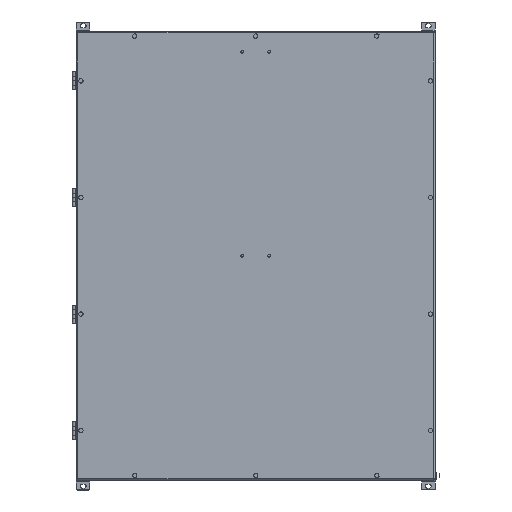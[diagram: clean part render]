
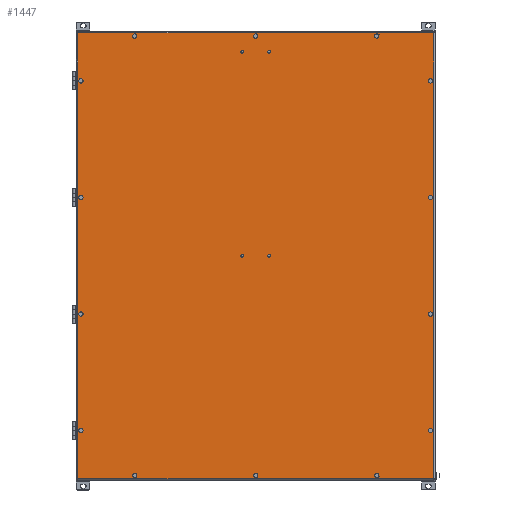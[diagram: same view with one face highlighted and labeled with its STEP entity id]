
A CAD part, top view. The second image highlights one B-rep face of the part: STEP entity #1447.
In plain terms, the highlighted planar face has unit normal (0, 0, 1).
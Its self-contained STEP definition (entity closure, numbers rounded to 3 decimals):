
#867=CARTESIAN_POINT('',(-397.0,-497.0,300.5));
#868=VERTEX_POINT('',#867);
#886=CARTESIAN_POINT('',(397.,-497.0,300.5));
#887=VERTEX_POINT('',#886);
#895=CARTESIAN_POINT('',(397.0,-497.0,300.5));
#896=DIRECTION('',(-1.0,0.0,0.0));
#897=VECTOR('',#896,794.0);
#898=LINE('',#895,#897);
#899=EDGE_CURVE('',#887,#868,#898,.T.);
#909=CARTESIAN_POINT('',(-397.,497.0,300.5));
#910=VERTEX_POINT('',#909);
#935=CARTESIAN_POINT('',(-397.0,-497.,300.5));
#936=DIRECTION('',(0.0,1.0,0.0));
#937=VECTOR('',#936,994.0);
#938=LINE('',#935,#937);
#939=EDGE_CURVE('',#868,#910,#938,.T.);
#949=CARTESIAN_POINT('',(397.0,497.0,300.5));
#950=VERTEX_POINT('',#949);
#975=CARTESIAN_POINT('',(-397.,497.0,300.5));
#976=DIRECTION('',(1.0,0.0,0.0));
#977=VECTOR('',#976,794.);
#978=LINE('',#975,#977);
#979=EDGE_CURVE('',#910,#950,#978,.T.);
#1013=CARTESIAN_POINT('',(397.0,497.0,300.5));
#1014=DIRECTION('',(0.0,-1.0,0.0));
#1015=VECTOR('',#1014,994.0);
#1016=LINE('',#1013,#1015);
#1017=EDGE_CURVE('',#950,#887,#1016,.T.);
#1238=CARTESIAN_POINT('',(0.,0.,300.5));
#1239=DIRECTION('',(0.0,0.0,1.0));
#1240=DIRECTION('',(1.0,0.0,0.0));
#1241=AXIS2_PLACEMENT_3D('',#1238,#1239,#1240);
#1242=PLANE('',#1241);
#1243=ORIENTED_EDGE('',*,*,#899,.F.);
#1244=ORIENTED_EDGE('',*,*,#1017,.F.);
#1245=ORIENTED_EDGE('',*,*,#979,.F.);
#1246=ORIENTED_EDGE('',*,*,#939,.F.);
#1247=EDGE_LOOP('',(#1243,#1244,#1245,#1246));
#1248=FACE_OUTER_BOUND('',#1247,.T.);
#1249=CARTESIAN_POINT('',(-386.25,390.0,300.5));
#1250=VERTEX_POINT('',#1249);
#1251=CARTESIAN_POINT('',(-390.,390.0,300.5));
#1252=DIRECTION('',(0.0,0.0,-1.0));
#1253=DIRECTION('',(-1.0,0.0,0.0));
#1254=AXIS2_PLACEMENT_3D('',#1251,#1252,#1253);
#1255=CIRCLE('',#1254,3.75);
#1256=EDGE_CURVE('',#1250,#1250,#1255,.T.);
#1257=ORIENTED_EDGE('',*,*,#1256,.T.);
#1258=EDGE_LOOP('',(#1257));
#1259=FACE_BOUND('',#1258,.T.);
#1260=CARTESIAN_POINT('',(393.75,390.,300.5));
#1261=VERTEX_POINT('',#1260);
#1262=CARTESIAN_POINT('',(390.,390.,300.5));
#1263=DIRECTION('',(0.0,0.0,-1.0));
#1264=DIRECTION('',(-1.0,0.0,0.0));
#1265=AXIS2_PLACEMENT_3D('',#1262,#1263,#1264);
#1266=CIRCLE('',#1265,3.75);
#1267=EDGE_CURVE('',#1261,#1261,#1266,.T.);
#1268=ORIENTED_EDGE('',*,*,#1267,.T.);
#1269=EDGE_LOOP('',(#1268));
#1270=FACE_BOUND('',#1269,.T.);
#1271=CARTESIAN_POINT('',(-386.25,130.,300.5));
#1272=VERTEX_POINT('',#1271);
#1273=CARTESIAN_POINT('',(-390.,130.,300.5));
#1274=DIRECTION('',(0.0,0.0,-1.0));
#1275=DIRECTION('',(-1.0,0.0,0.0));
#1276=AXIS2_PLACEMENT_3D('',#1273,#1274,#1275);
#1277=CIRCLE('',#1276,3.75);
#1278=EDGE_CURVE('',#1272,#1272,#1277,.T.);
#1279=ORIENTED_EDGE('',*,*,#1278,.T.);
#1280=EDGE_LOOP('',(#1279));
#1281=FACE_BOUND('',#1280,.T.);
#1282=CARTESIAN_POINT('',(393.75,130.,300.5));
#1283=VERTEX_POINT('',#1282);
#1284=CARTESIAN_POINT('',(390.,130.,300.5));
#1285=DIRECTION('',(0.0,0.0,-1.0));
#1286=DIRECTION('',(-1.0,0.0,0.0));
#1287=AXIS2_PLACEMENT_3D('',#1284,#1285,#1286);
#1288=CIRCLE('',#1287,3.75);
#1289=EDGE_CURVE('',#1283,#1283,#1288,.T.);
#1290=ORIENTED_EDGE('',*,*,#1289,.T.);
#1291=EDGE_LOOP('',(#1290));
#1292=FACE_BOUND('',#1291,.T.);
#1293=CARTESIAN_POINT('',(-386.25,-130.,300.5));
#1294=VERTEX_POINT('',#1293);
#1295=CARTESIAN_POINT('',(-390.,-130.,300.5));
#1296=DIRECTION('',(0.0,0.0,-1.0));
#1297=DIRECTION('',(-1.0,0.0,0.0));
#1298=AXIS2_PLACEMENT_3D('',#1295,#1296,#1297);
#1299=CIRCLE('',#1298,3.75);
#1300=EDGE_CURVE('',#1294,#1294,#1299,.T.);
#1301=ORIENTED_EDGE('',*,*,#1300,.T.);
#1302=EDGE_LOOP('',(#1301));
#1303=FACE_BOUND('',#1302,.T.);
#1304=CARTESIAN_POINT('',(393.75,-130.,300.5));
#1305=VERTEX_POINT('',#1304);
#1306=CARTESIAN_POINT('',(390.,-130.,300.5));
#1307=DIRECTION('',(0.0,0.0,-1.0));
#1308=DIRECTION('',(-1.0,0.0,0.0));
#1309=AXIS2_PLACEMENT_3D('',#1306,#1307,#1308);
#1310=CIRCLE('',#1309,3.75);
#1311=EDGE_CURVE('',#1305,#1305,#1310,.T.);
#1312=ORIENTED_EDGE('',*,*,#1311,.T.);
#1313=EDGE_LOOP('',(#1312));
#1314=FACE_BOUND('',#1313,.T.);
#1315=CARTESIAN_POINT('',(-386.25,-390.0,300.5));
#1316=VERTEX_POINT('',#1315);
#1317=CARTESIAN_POINT('',(-390.,-390.0,300.5));
#1318=DIRECTION('',(0.0,0.0,-1.0));
#1319=DIRECTION('',(-1.0,0.0,0.0));
#1320=AXIS2_PLACEMENT_3D('',#1317,#1318,#1319);
#1321=CIRCLE('',#1320,3.75);
#1322=EDGE_CURVE('',#1316,#1316,#1321,.T.);
#1323=ORIENTED_EDGE('',*,*,#1322,.T.);
#1324=EDGE_LOOP('',(#1323));
#1325=FACE_BOUND('',#1324,.T.);
#1326=CARTESIAN_POINT('',(393.75,-390.,300.5));
#1327=VERTEX_POINT('',#1326);
#1328=CARTESIAN_POINT('',(390.,-390.,300.5));
#1329=DIRECTION('',(0.0,0.0,-1.0));
#1330=DIRECTION('',(-1.0,0.0,0.0));
#1331=AXIS2_PLACEMENT_3D('',#1328,#1329,#1330);
#1332=CIRCLE('',#1331,3.75);
#1333=EDGE_CURVE('',#1327,#1327,#1332,.T.);
#1334=ORIENTED_EDGE('',*,*,#1333,.T.);
#1335=EDGE_LOOP('',(#1334));
#1336=FACE_BOUND('',#1335,.T.);
#1337=CARTESIAN_POINT('',(3.75,490.0,300.5));
#1338=VERTEX_POINT('',#1337);
#1339=CARTESIAN_POINT('',(0.,490.0,300.5));
#1340=DIRECTION('',(0.0,0.0,-1.0));
#1341=DIRECTION('',(-1.0,0.0,0.0));
#1342=AXIS2_PLACEMENT_3D('',#1339,#1340,#1341);
#1343=CIRCLE('',#1342,3.75);
#1344=EDGE_CURVE('',#1338,#1338,#1343,.T.);
#1345=ORIENTED_EDGE('',*,*,#1344,.T.);
#1346=EDGE_LOOP('',(#1345));
#1347=FACE_BOUND('',#1346,.T.);
#1348=CARTESIAN_POINT('',(3.75,-490.0,300.5));
#1349=VERTEX_POINT('',#1348);
#1350=CARTESIAN_POINT('',(0.,-490.0,300.5));
#1351=DIRECTION('',(0.0,0.0,-1.0));
#1352=DIRECTION('',(-1.0,0.0,0.0));
#1353=AXIS2_PLACEMENT_3D('',#1350,#1351,#1352);
#1354=CIRCLE('',#1353,3.75);
#1355=EDGE_CURVE('',#1349,#1349,#1354,.T.);
#1356=ORIENTED_EDGE('',*,*,#1355,.T.);
#1357=EDGE_LOOP('',(#1356));
#1358=FACE_BOUND('',#1357,.T.);
#1359=CARTESIAN_POINT('',(-266.25,490.0,300.5));
#1360=VERTEX_POINT('',#1359);
#1361=CARTESIAN_POINT('',(-270.0,490.0,300.5));
#1362=DIRECTION('',(0.0,0.0,-1.0));
#1363=DIRECTION('',(-1.0,0.0,0.0));
#1364=AXIS2_PLACEMENT_3D('',#1361,#1362,#1363);
#1365=CIRCLE('',#1364,3.75);
#1366=EDGE_CURVE('',#1360,#1360,#1365,.T.);
#1367=ORIENTED_EDGE('',*,*,#1366,.T.);
#1368=EDGE_LOOP('',(#1367));
#1369=FACE_BOUND('',#1368,.T.);
#1370=CARTESIAN_POINT('',(-266.25,-490.0,300.5));
#1371=VERTEX_POINT('',#1370);
#1372=CARTESIAN_POINT('',(-270.,-490.0,300.5));
#1373=DIRECTION('',(0.0,0.0,-1.0));
#1374=DIRECTION('',(-1.0,0.0,0.0));
#1375=AXIS2_PLACEMENT_3D('',#1372,#1373,#1374);
#1376=CIRCLE('',#1375,3.75);
#1377=EDGE_CURVE('',#1371,#1371,#1376,.T.);
#1378=ORIENTED_EDGE('',*,*,#1377,.T.);
#1379=EDGE_LOOP('',(#1378));
#1380=FACE_BOUND('',#1379,.T.);
#1381=CARTESIAN_POINT('',(273.75,490.0,300.5));
#1382=VERTEX_POINT('',#1381);
#1383=CARTESIAN_POINT('',(270.0,490.0,300.5));
#1384=DIRECTION('',(0.0,0.0,-1.0));
#1385=DIRECTION('',(-1.0,0.0,0.0));
#1386=AXIS2_PLACEMENT_3D('',#1383,#1384,#1385);
#1387=CIRCLE('',#1386,3.75);
#1388=EDGE_CURVE('',#1382,#1382,#1387,.T.);
#1389=ORIENTED_EDGE('',*,*,#1388,.T.);
#1390=EDGE_LOOP('',(#1389));
#1391=FACE_BOUND('',#1390,.T.);
#1392=CARTESIAN_POINT('',(273.75,-490.0,300.5));
#1393=VERTEX_POINT('',#1392);
#1394=CARTESIAN_POINT('',(270.,-490.0,300.5));
#1395=DIRECTION('',(0.0,0.0,-1.0));
#1396=DIRECTION('',(-1.0,0.0,0.0));
#1397=AXIS2_PLACEMENT_3D('',#1394,#1395,#1396);
#1398=CIRCLE('',#1397,3.75);
#1399=EDGE_CURVE('',#1393,#1393,#1398,.T.);
#1400=ORIENTED_EDGE('',*,*,#1399,.T.);
#1401=EDGE_LOOP('',(#1400));
#1402=FACE_BOUND('',#1401,.T.);
#1403=CARTESIAN_POINT('',(33.05,455.0,300.5));
#1404=VERTEX_POINT('',#1403);
#1405=CARTESIAN_POINT('',(30.,455.0,300.5));
#1406=DIRECTION('',(0.0,0.0,-1.0));
#1407=DIRECTION('',(-1.0,0.0,0.0));
#1408=AXIS2_PLACEMENT_3D('',#1405,#1406,#1407);
#1409=CIRCLE('',#1408,3.05);
#1410=EDGE_CURVE('',#1404,#1404,#1409,.T.);
#1411=ORIENTED_EDGE('',*,*,#1410,.T.);
#1412=EDGE_LOOP('',(#1411));
#1413=FACE_BOUND('',#1412,.T.);
#1414=CARTESIAN_POINT('',(-26.95,455.0,300.5));
#1415=VERTEX_POINT('',#1414);
#1416=CARTESIAN_POINT('',(-30.,455.0,300.5));
#1417=DIRECTION('',(0.0,0.0,-1.0));
#1418=DIRECTION('',(-1.0,0.0,0.0));
#1419=AXIS2_PLACEMENT_3D('',#1416,#1417,#1418);
#1420=CIRCLE('',#1419,3.05);
#1421=EDGE_CURVE('',#1415,#1415,#1420,.T.);
#1422=ORIENTED_EDGE('',*,*,#1421,.T.);
#1423=EDGE_LOOP('',(#1422));
#1424=FACE_BOUND('',#1423,.T.);
#1425=CARTESIAN_POINT('',(-26.95,0.,300.5));
#1426=VERTEX_POINT('',#1425);
#1427=CARTESIAN_POINT('',(-30.,0.,300.5));
#1428=DIRECTION('',(0.0,0.0,-1.0));
#1429=DIRECTION('',(-1.0,0.0,0.0));
#1430=AXIS2_PLACEMENT_3D('',#1427,#1428,#1429);
#1431=CIRCLE('',#1430,3.05);
#1432=EDGE_CURVE('',#1426,#1426,#1431,.T.);
#1433=ORIENTED_EDGE('',*,*,#1432,.T.);
#1434=EDGE_LOOP('',(#1433));
#1435=FACE_BOUND('',#1434,.T.);
#1436=CARTESIAN_POINT('',(33.05,0.,300.5));
#1437=VERTEX_POINT('',#1436);
#1438=CARTESIAN_POINT('',(30.,0.,300.5));
#1439=DIRECTION('',(0.0,0.0,-1.0));
#1440=DIRECTION('',(-1.0,0.0,0.0));
#1441=AXIS2_PLACEMENT_3D('',#1438,#1439,#1440);
#1442=CIRCLE('',#1441,3.05);
#1443=EDGE_CURVE('',#1437,#1437,#1442,.T.);
#1444=ORIENTED_EDGE('',*,*,#1443,.T.);
#1445=EDGE_LOOP('',(#1444));
#1446=FACE_BOUND('',#1445,.T.);
#1447=ADVANCED_FACE('',(#1248,#1259,#1270,#1281,#1292,#1303,#1314,#1325,#1336,#1347,#1358,#1369,#1380,#1391,#1402,#1413,#1424,#1435,#1446),#1242,.T.);
